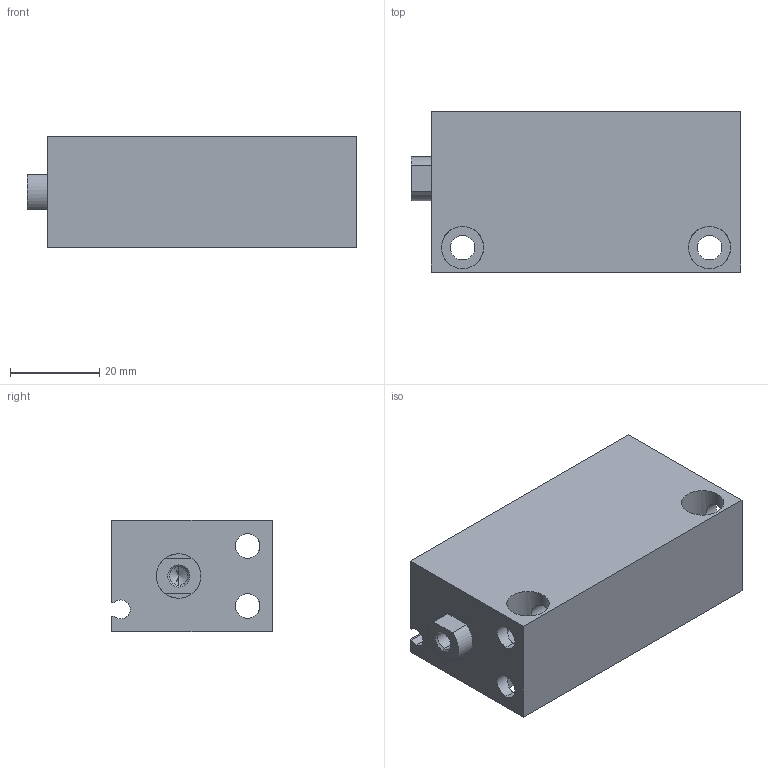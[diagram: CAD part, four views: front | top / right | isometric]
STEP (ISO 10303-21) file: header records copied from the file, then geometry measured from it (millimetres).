
FILE_DESCRIPTION (( 'STEP AP203' ), '1' );
FILE_NAME ('CLJB20-50.STEP', '2020-07-30T19:27:45', ( '' ), ( '' ), 'SwSTEP 2.0', 'SolidWorks 2019', '' );
FILE_SCHEMA (( 'CONFIG_CONTROL_DESIGN' ));
Length unit declared in the file: millimetre
Products named in the file (1): CLJB20-50
Bounding box: 74 x 36 x 25 mm (x, y, z)
Volume: 44554 mm3; surface area: 20357.7 mm2
Topology: 2 solids, 2 shells, 75 faces, 188 edges, 113 vertices
Faces by surface type: cylinder 41, plane 22, cone 12
Entity records: 3255 total; most frequent: CARTESIAN_POINT 1359, DIRECTION 394, ORIENTED_EDGE 364, EDGE_CURVE 182, AXIS2_PLACEMENT_3D 152, VERTEX_POINT 113, EDGE_LOOP 93, LINE 90
